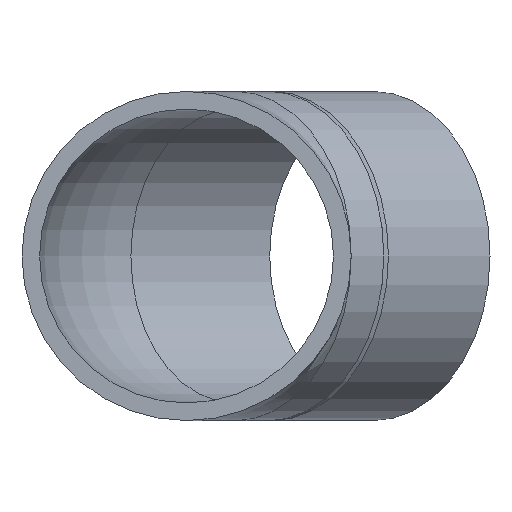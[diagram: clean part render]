
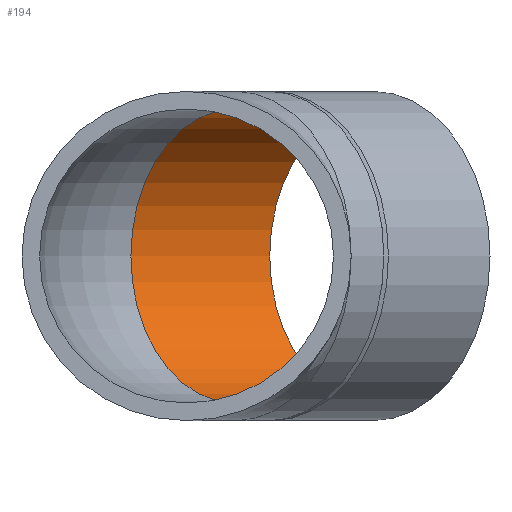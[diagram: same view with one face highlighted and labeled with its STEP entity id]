
A CAD part, front view. The second image highlights one B-rep face of the part: STEP entity #194.
In plain terms, the highlighted cylindrical face has radius 25 mm (diameter 50 mm), a full revolution.
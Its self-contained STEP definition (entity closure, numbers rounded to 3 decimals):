
#17=CYLINDRICAL_SURFACE($,#223,25.);
#30=FACE_BOUND($,#71,.T.);
#50=FACE_OUTER_BOUND($,#70,.T.);
#70=EDGE_LOOP($,(#147));
#71=EDGE_LOOP($,(#148));
#96=CIRCLE($,#224,25.);
#97=CIRCLE($,#225,25.);
#111=VERTEX_POINT($,#369);
#112=VERTEX_POINT($,#371);
#127=EDGE_CURVE($,#111,#111,#96,.T.);
#128=EDGE_CURVE($,#112,#112,#97,.T.);
#147=ORIENTED_EDGE($,*,*,#127,.F.);
#148=ORIENTED_EDGE($,*,*,#128,.T.);
#194=ADVANCED_FACE($,(#50,#30),#17,.F.);
#223=AXIS2_PLACEMENT_3D($,#368,#273,#274);
#224=AXIS2_PLACEMENT_3D($,#370,#275,#276);
#225=AXIS2_PLACEMENT_3D($,#372,#277,#278);
#273=DIRECTION('center_axis',(0.707,0.707,0.));
#274=DIRECTION('ref_axis',(0.707,-0.707,0.));
#275=DIRECTION('center_axis',(-0.707,-0.707,0.));
#276=DIRECTION('ref_axis',(0.707,-0.707,0.));
#277=DIRECTION('center_axis',(-0.707,-0.707,0.));
#278=DIRECTION('ref_axis',(0.707,-0.707,0.));
#368=CARTESIAN_POINT('Origin',(8.201,53.201,0.));
#369=CARTESIAN_POINT('',(14.142,94.497,0.));
#370=CARTESIAN_POINT('Origin',(31.82,76.82,0.));
#371=CARTESIAN_POINT('',(-9.477,70.879,0.));
#372=CARTESIAN_POINT('Origin',(8.201,53.201,0.));
